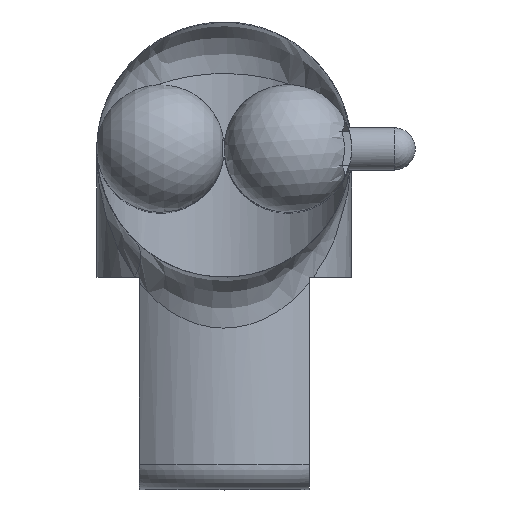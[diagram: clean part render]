
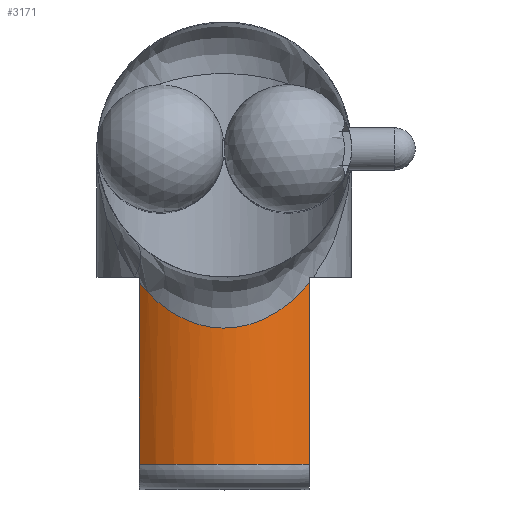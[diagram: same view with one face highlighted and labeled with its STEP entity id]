
A CAD part, top view. The second image highlights one B-rep face of the part: STEP entity #3171.
In plain terms, the highlighted cylindrical face has radius 15 mm (diameter 30 mm), a partial arc.
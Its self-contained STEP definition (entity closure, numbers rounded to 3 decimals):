
#2584=CARTESIAN_POINT('Vertex',(-41.402,-15.652,-3.82)) ;
#2588=CARTESIAN_POINT('Control Point',(-21.402,-15.652,-3.82)) ;
#2589=CARTESIAN_POINT('Control Point',(-21.466,-15.732,-3.763)) ;
#2590=CARTESIAN_POINT('Control Point',(-21.53,-15.812,-3.706)) ;
#2591=CARTESIAN_POINT('Control Point',(-21.595,-15.891,-3.649)) ;
#2592=CARTESIAN_POINT('Control Point',(-22.382,-16.835,-2.975)) ;
#2593=CARTESIAN_POINT('Control Point',(-23.264,-17.726,-2.339)) ;
#2594=CARTESIAN_POINT('Control Point',(-24.163,-18.486,-1.795)) ;
#2595=CARTESIAN_POINT('Control Point',(-25.85,-19.634,-0.976)) ;
#2596=CARTESIAN_POINT('Control Point',(-27.803,-20.438,-0.402)) ;
#2597=CARTESIAN_POINT('Control Point',(-28.647,-20.698,-0.216)) ;
#2598=CARTESIAN_POINT('Control Point',(-30.543,-21.074,0.053)) ;
#2599=CARTESIAN_POINT('Control Point',(-32.498,-21.022,0.016)) ;
#2600=CARTESIAN_POINT('Control Point',(-33.533,-20.861,-0.099)) ;
#2601=CARTESIAN_POINT('Control Point',(-35.358,-20.353,-0.462)) ;
#2602=CARTESIAN_POINT('Control Point',(-36.997,-19.531,-1.049)) ;
#2603=CARTESIAN_POINT('Control Point',(-37.7,-19.102,-1.356)) ;
#2604=CARTESIAN_POINT('Control Point',(-38.946,-18.212,-1.991)) ;
#2605=CARTESIAN_POINT('Control Point',(-40.04,-17.201,-2.714)) ;
#2606=CARTESIAN_POINT('Control Point',(-40.523,-16.701,-3.07)) ;
#2607=CARTESIAN_POINT('Control Point',(-40.977,-16.185,-3.44)) ;
#2608=CARTESIAN_POINT('Control Point',(-41.402,-15.652,-3.82)) ;
#2609=CARTESIAN_POINT('Vertex',(-21.402,-15.652,-3.82)) ;
#3003=CARTESIAN_POINT('Axis2P3D Location',(-31.402,-5.228,-15.)) ;
#3112=CARTESIAN_POINT('Vertex',(-41.402,-37.,-3.82)) ;
#3115=CARTESIAN_POINT('Line Origine',(-41.402,-26.326,-3.82)) ;
#3153=CARTESIAN_POINT('Line Origine',(-21.402,-13.943,-3.82)) ;
#3157=CARTESIAN_POINT('Vertex',(-21.402,-37.,-3.82)) ;
#3160=CARTESIAN_POINT('Axis2P3D Location',(-31.402,-37.,-15.)) ;
#3004=DIRECTION('Axis2P3D Direction',(0.,-1.,0.)) ;
#3005=DIRECTION('Axis2P3D XDirection',(-1.,0.,0.)) ;
#3116=DIRECTION('Vector Direction',(0.,1.,0.)) ;
#3154=DIRECTION('Vector Direction',(0.,-1.,0.)) ;
#3161=DIRECTION('Axis2P3D Direction',(0.,-1.,0.)) ;
#3006=AXIS2_PLACEMENT_3D('Cylinder Axis2P3D',#3003,#3004,#3005) ;
#3162=AXIS2_PLACEMENT_3D('Circle Axis2P3D',#3160,#3161,$) ;
#3166=ORIENTED_EDGE('',*,*,#3159,.T.) ;
#3167=ORIENTED_EDGE('',*,*,#2611,.F.) ;
#3168=ORIENTED_EDGE('',*,*,#3119,.F.) ;
#3169=ORIENTED_EDGE('',*,*,#3164,.F.) ;
#3117=VECTOR('Line Direction',#3116,1.) ;
#3155=VECTOR('Line Direction',#3154,1.) ;
#3171=ADVANCED_FACE('PartBody',(#3170),#3007,.T.) ;
#2587=B_SPLINE_CURVE_WITH_KNOTS('',5,(#2588,#2589,#2590,#2591,#2592,#2593,#2594,#2595,#2596,#2597,#2598,#2599,#2600,#2601,#2602,#2603,#2604,#2605,#2606,#2607,#2608),.UNSPECIFIED.,.F.,.U.,(6,3,3,3,3,3,6),(28.48,29.308,38.392,44.716,52.08,58.257,63.77),.UNSPECIFIED.) ;
#3163=CIRCLE('generated circle',#3162,15.) ;
#3007=CYLINDRICAL_SURFACE('generated cylinder',#3006,15.) ;
#2611=EDGE_CURVE('',#2585,#2610,#2587,.F.) ;
#3119=EDGE_CURVE('',#3113,#2585,#3118,.T.) ;
#3159=EDGE_CURVE('',#3158,#2610,#3156,.F.) ;
#3164=EDGE_CURVE('',#3158,#3113,#3163,.T.) ;
#3165=EDGE_LOOP('',(#3166,#3167,#3168,#3169)) ;
#3170=FACE_OUTER_BOUND('',#3165,.T.) ;
#3118=LINE('Line',#3115,#3117) ;
#3156=LINE('Line',#3153,#3155) ;
#2585=VERTEX_POINT('',#2584) ;
#2610=VERTEX_POINT('',#2609) ;
#3113=VERTEX_POINT('',#3112) ;
#3158=VERTEX_POINT('',#3157) ;
